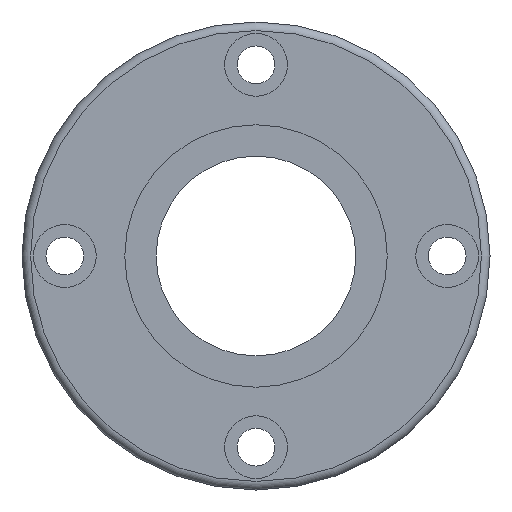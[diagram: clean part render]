
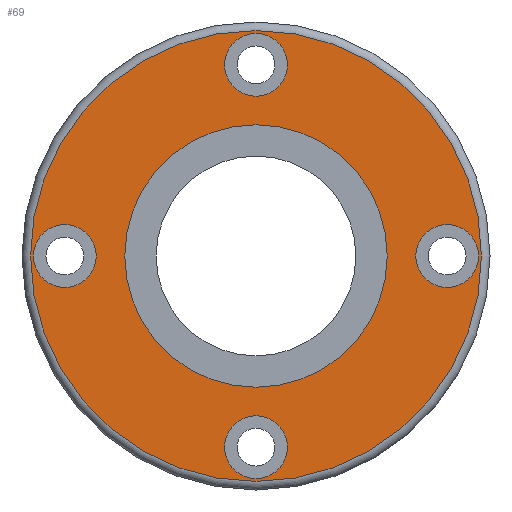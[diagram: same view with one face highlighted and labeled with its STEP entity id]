
A CAD part, left-side view. The second image highlights one B-rep face of the part: STEP entity #69.
In plain terms, the highlighted planar face has unit normal (-1, 0, 0).
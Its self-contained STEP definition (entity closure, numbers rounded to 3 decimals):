
#69 = ADVANCED_FACE( '', ( #162, #163, #164, #165, #166, #167 ), #168, .T. );
#162 = FACE_BOUND( '', #285, .T. );
#163 = FACE_BOUND( '', #286, .T. );
#164 = FACE_BOUND( '', #287, .T. );
#165 = FACE_BOUND( '', #288, .T. );
#166 = FACE_BOUND( '', #289, .T. );
#167 = FACE_OUTER_BOUND( '', #290, .T. );
#168 = PLANE( '', #291 );
#285 = EDGE_LOOP( '', ( #420 ) );
#286 = EDGE_LOOP( '', ( #421 ) );
#287 = EDGE_LOOP( '', ( #422 ) );
#288 = EDGE_LOOP( '', ( #423 ) );
#289 = EDGE_LOOP( '', ( #424 ) );
#290 = EDGE_LOOP( '', ( #425 ) );
#291 = AXIS2_PLACEMENT_3D( '', #426, #427, #428 );
#420 = ORIENTED_EDGE( '', *, *, #559, .T. );
#421 = ORIENTED_EDGE( '', *, *, #560, .T. );
#422 = ORIENTED_EDGE( '', *, *, #561, .T. );
#423 = ORIENTED_EDGE( '', *, *, #562, .T. );
#424 = ORIENTED_EDGE( '', *, *, #563, .F. );
#425 = ORIENTED_EDGE( '', *, *, #556, .T. );
#426 = CARTESIAN_POINT( '', ( 0., 31.9, 0. ) );
#427 = DIRECTION( '', ( -1., 0., 0. ) );
#428 = DIRECTION( '', ( 0., 1., 0. ) );
#556 = EDGE_CURVE( '', #630, #630, #631, .T. );
#559 = EDGE_CURVE( '', #635, #635, #636, .T. );
#560 = EDGE_CURVE( '', #637, #637, #638, .T. );
#561 = EDGE_CURVE( '', #639, #639, #640, .T. );
#562 = EDGE_CURVE( '', #641, #641, #642, .T. );
#563 = EDGE_CURVE( '', #643, #643, #644, .T. );
#630 = VERTEX_POINT( '', #719 );
#631 = CIRCLE( '', #720, 39.5 );
#635 = VERTEX_POINT( '', #724 );
#636 = CIRCLE( '', #725, 5.5 );
#637 = VERTEX_POINT( '', #726 );
#638 = CIRCLE( '', #727, 5.5 );
#639 = VERTEX_POINT( '', #728 );
#640 = CIRCLE( '', #729, 5.5 );
#641 = VERTEX_POINT( '', #730 );
#642 = CIRCLE( '', #731, 5.5 );
#643 = VERTEX_POINT( '', #732 );
#644 = CIRCLE( '', #733, 23. );
#719 = CARTESIAN_POINT( '', ( 0., 39.5, 0. ) );
#720 = AXIS2_PLACEMENT_3D( '', #815, #816, #817 );
#724 = CARTESIAN_POINT( '', ( 0., 0., -39. ) );
#725 = AXIS2_PLACEMENT_3D( '', #821, #822, #823 );
#726 = CARTESIAN_POINT( '', ( 0., 0., 39. ) );
#727 = AXIS2_PLACEMENT_3D( '', #824, #825, #826 );
#728 = CARTESIAN_POINT( '', ( 0., 39., 0. ) );
#729 = AXIS2_PLACEMENT_3D( '', #827, #828, #829 );
#730 = CARTESIAN_POINT( '', ( 0., -39., 0. ) );
#731 = AXIS2_PLACEMENT_3D( '', #830, #831, #832 );
#732 = CARTESIAN_POINT( '', ( 0., 23., 0. ) );
#733 = AXIS2_PLACEMENT_3D( '', #833, #834, #835 );
#815 = CARTESIAN_POINT( '', ( 0., 0., 0. ) );
#816 = DIRECTION( '', ( -1., 0., 0. ) );
#817 = DIRECTION( '', ( 0., 0., 1. ) );
#821 = CARTESIAN_POINT( '', ( 0., 0., -33.5 ) );
#822 = DIRECTION( '', ( 1., 0., 0. ) );
#823 = DIRECTION( '', ( 0., 0., -1. ) );
#824 = CARTESIAN_POINT( '', ( 0., 0., 33.5 ) );
#825 = DIRECTION( '', ( 1., 0., 0. ) );
#826 = DIRECTION( '', ( 0., 0., 1. ) );
#827 = CARTESIAN_POINT( '', ( 0., 33.5, 0. ) );
#828 = DIRECTION( '', ( 1., 0., 0. ) );
#829 = DIRECTION( '', ( 0., 1., 0. ) );
#830 = CARTESIAN_POINT( '', ( 0., -33.5, 0. ) );
#831 = DIRECTION( '', ( 1., 0., 0. ) );
#832 = DIRECTION( '', ( 0., -1., 0. ) );
#833 = CARTESIAN_POINT( '', ( 0., 0., 0. ) );
#834 = DIRECTION( '', ( -1., 0., 0. ) );
#835 = DIRECTION( '', ( 0., 1., 0. ) );
